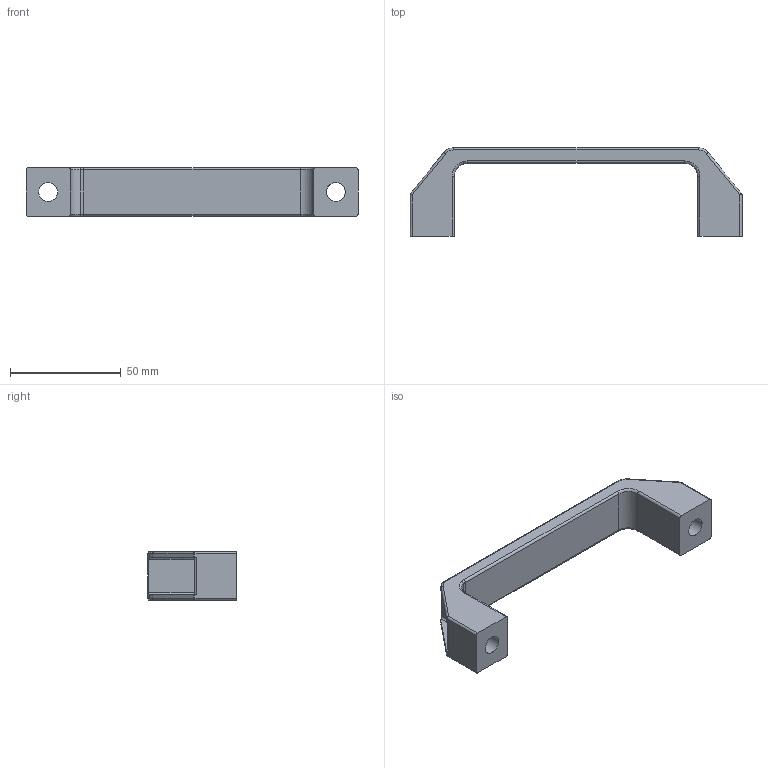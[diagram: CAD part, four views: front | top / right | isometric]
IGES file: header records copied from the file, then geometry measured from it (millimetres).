
Global section: file name: DR_A-AS130; native system: Autodesk Inventor 2015; preprocessor: unknown; author: CH.J; date: 20170706.162716; units: millimetre
Bounding box: 150 x 40 x 22 mm (x, y, z)
Volume: 33933.4 mm3; surface area: 15140.8 mm2
Topology: 1 solids, 1 shells, 71 faces, 175 edges, 108 vertices
Faces by surface type: bspline 71
